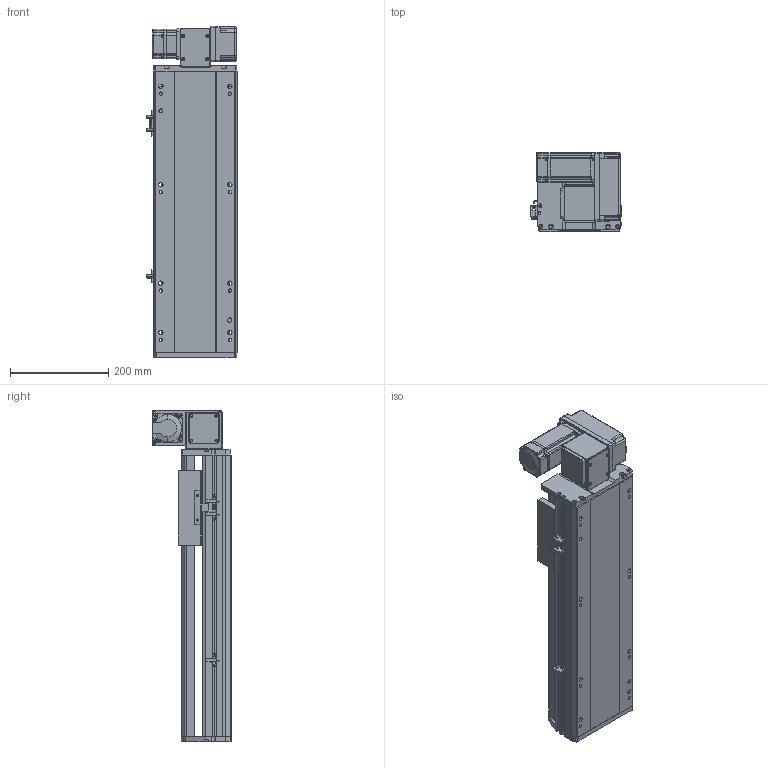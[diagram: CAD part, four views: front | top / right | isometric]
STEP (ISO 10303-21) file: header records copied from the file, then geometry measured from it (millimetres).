
FILE_DESCRIPTION (( 'STEP AP214' ), '1' );
FILE_NAME ('RTB17S-XX-300-RW-M40-C4.STEP', '2025-12-11T08:49:29', ( '' ), ( '' ), 'SwSTEP 2.0', 'SolidWorks 2018', '' );
FILE_SCHEMA (( 'AUTOMOTIVE_DESIGN' ));
Length unit declared in the file: millimetre
Products named in the file (14): RTB17S-RW-々湍釱蚾饜-400W^RTB17S-XX-XX-RW-M40-C4; RTB17S-L-004佪裝蹟譫蟀諉釱^RTB17S-XX-XX-RW-M40-C4; 400W侜督萇儂^RTB17S-XX-XX-RW-M40-C4; RTB17S-L-001耜醱啣^RTB17S-XX-XX-RW-M40-C4; RTB17S-L-007奻裔^RTB17S-XX-XX-RW-M40-C4; RTB14-L-017P^RTB17S-RW-々湍釱蚾饜-400W_RTB17S-XX-XX-RW-M40-C4; RTB14-L-005P--轴承塑胶压盖^RTB17S-RW-皮带座装配-400W_RTB17S-XX-XX-RW-M40-C4; RTB14-L-008-M20--萇儂啣^RTB17S-RW-々湍釱蚾饜-400W_RTB17S-XX-XX-RW-M40-C4; RTB17S-XX-300-RW-M40-C4; OMRON EE-SX672 传感器^RTB17S-XX-XX-RW-M40-C4; RTB14-L-018P^RTB17S-RW-々湍釱蚾饜-400W_RTB17S-XX-XX-RW-M40-C4; RTB17-R-011菁釱^RTB17S-XX-XX-RW-M40-C4; RMP17S-L-014-T20--々湍釱^RTB17S-RW-々湍釱蚾饜-400W_RTB17S-XX-XX-RW-M40-C4; RTH13-BL-012覜茼え俋离^RTB17S-XX-XX-RW-M40-C4
Assembly tree (16 placements, depth 3):
  RTB17S-XX-300-RW-M40-C4
    RTB17-R-011菁釱^RTB17S-XX-XX-RW-M40-C4
    RTB17S-L-007奻裔^RTB17S-XX-XX-RW-M40-C4
    OMRON EE-SX672 传感器^RTB17S-XX-XX-RW-M40-C4  x3
    RTB17S-L-001耜醱啣^RTB17S-XX-XX-RW-M40-C4
    400W侜督萇儂^RTB17S-XX-XX-RW-M40-C4
    RTB17S-L-004佪裝蹟譫蟀諉釱^RTB17S-XX-XX-RW-M40-C4
    RTH13-BL-012覜茼え俋离^RTB17S-XX-XX-RW-M40-C4
    RTB17S-RW-々湍釱蚾饜-400W^RTB17S-XX-XX-RW-M40-C4
      RMP17S-L-014-T20--々湍釱^RTB17S-RW-々湍釱蚾饜-400W_RTB17S-XX-XX-RW-M40-C4
      RTB14-L-005P--轴承塑胶压盖^RTB17S-RW-皮带座装配-400W_RTB17S-XX-XX-RW-M40-C4
      RTB14-L-008-M20--萇儂啣^RTB17S-RW-々湍釱蚾饜-400W_RTB17S-XX-XX-RW-M40-C4
      RTB14-L-017P^RTB17S-RW-々湍釱蚾饜-400W_RTB17S-XX-XX-RW-M40-C4  x2
      RTB14-L-018P^RTB17S-RW-々湍釱蚾饜-400W_RTB17S-XX-XX-RW-M40-C4
Bounding box: 183.5 x 160.5 x 672.5 mm (x, y, z)
Volume: 6663312.5 mm3; surface area: 876460.2 mm2
Topology: 15 solids, 15 shells, 2157 faces, 5925 edges, 3861 vertices
Faces by surface type: plane 1062, cylinder 647, bspline 301, cone 139, torus 8
Entity records: 60329 total; most frequent: CARTESIAN_POINT 16730, ORIENTED_EDGE 8694, DIRECTION 8126, EDGE_CURVE 4347, VERTEX_POINT 2849, AXIS2_PLACEMENT_3D 2779, LINE 2568, VECTOR 2568
